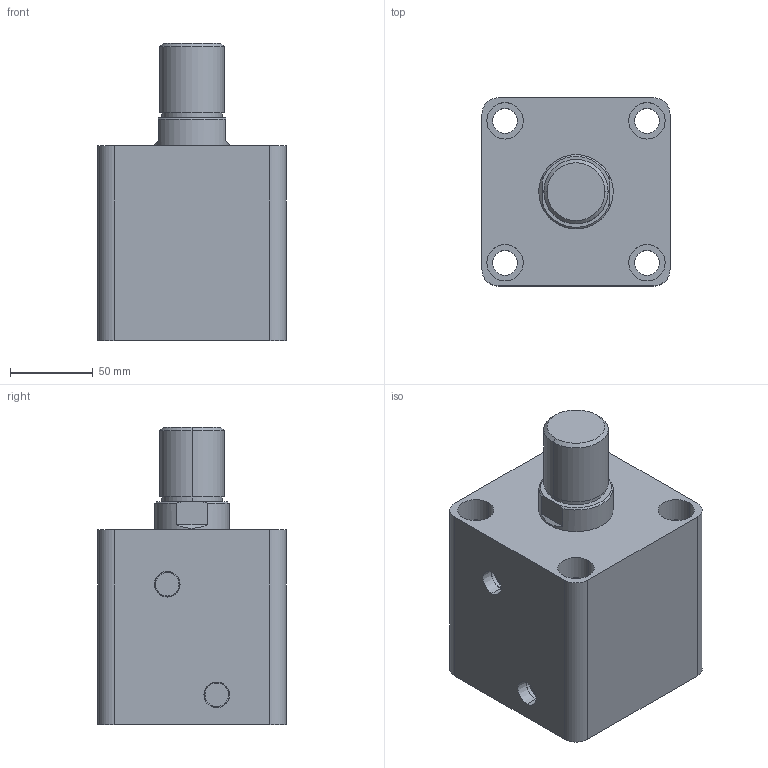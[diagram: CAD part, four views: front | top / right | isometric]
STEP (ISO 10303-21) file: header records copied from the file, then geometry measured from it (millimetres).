
FILE_DESCRIPTION (( 'STEP AP203' ), '1' );
FILE_NAME ('HTB-SD80-40W.STEP', '2019-10-07T08:25:01', ( '微软用户' ), ( '微软中国' ), 'SwSTEP 2.0', 'SolidWorks 2012', '' );
FILE_SCHEMA (( 'CONFIG_CONTROL_DESIGN' ));
Length unit declared in the file: millimetre
Products named in the file (3): HTB-SD80-40W; HTB-SD80-40W活塞杆; HTB-SD80-40掛极
Assembly tree (2 placements, depth 2):
  HTB-SD80-40W
    HTB-SD80-40掛极
    HTB-SD80-40W活塞杆
Bounding box: 114 x 114 x 180 mm (x, y, z)
Volume: 1353684.6 mm3; surface area: 166981.5 mm2
Topology: 2 solids, 2 shells, 87 faces, 190 edges, 124 vertices
Faces by surface type: cylinder 44, plane 29, cone 8, torus 6
Entity records: 2761 total; most frequent: DIRECTION 478, CARTESIAN_POINT 434, ORIENTED_EDGE 380, AXIS2_PLACEMENT_3D 204, EDGE_CURVE 190, VERTEX_POINT 124, CIRCLE 112, EDGE_LOOP 112
